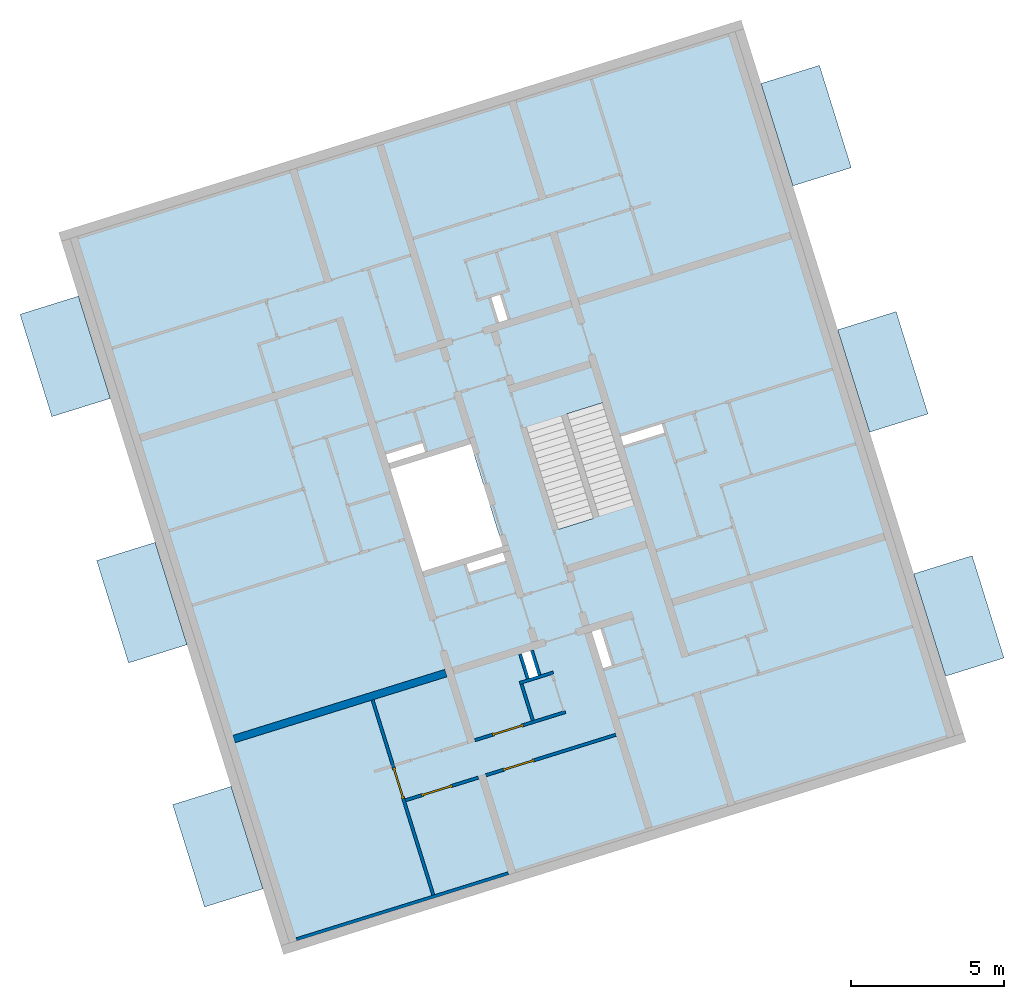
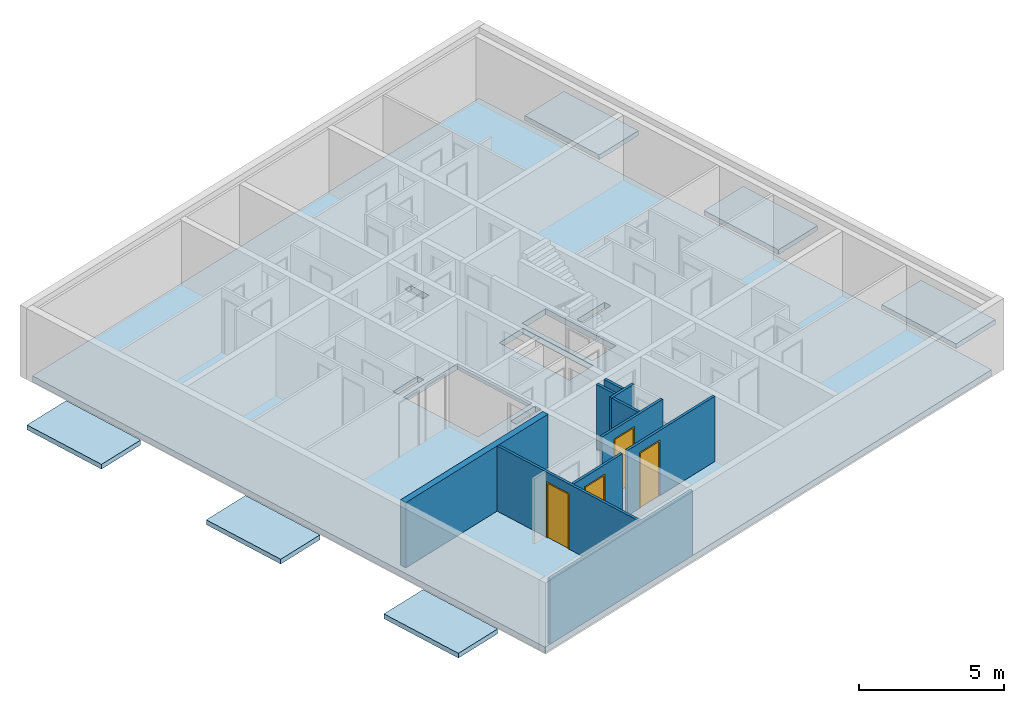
# One storey, part 1 of 9: 10 walls, 7 slabs, 4 doors, 13 openings.
"""IFC4 building model written with IfcOpenShell, lengths in metres."""

from ifc_helpers import new_model, entity, si_unit, converted_unit, direction, frame, origin, place, context, subcontext, project, spatial, indexed_curve, outline, extrude, polygons, source, transform, mapped, material, constituent, constituent_set, type_object, type_shapes, element, fill, save


model = new_model("IFC4")

# Units and contexts
model_context = context("Model", 3, precision=1e-05, world=origin(), true_north=direction((6.12323399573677e-17, 1.0)))
body_context = subcontext(model_context, "Body", "Model", "MODEL_VIEW")
ifc_project = project(units=[si_unit("LENGTHUNIT", "METRE"), si_unit("AREAUNIT", "SQUARE_METRE"), si_unit("VOLUMEUNIT", "CUBIC_METRE"), converted_unit("PLANEANGLEUNIT", "DEGREE", entity("IfcPlaneAngleMeasure", 0.0174532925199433), si_unit("PLANEANGLEUNIT", "RADIAN"), dimensions=[0, 0, 0, 0, 0, 0, 0])], contexts=[model_context])

# Site, building, storey
site_placement = place(None, frame((13.1347999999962, 11.9886000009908, 0.0), z_axis=(0.0, 0.0, 1.0), x_axis=(0.954770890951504, 0.297342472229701, 0.0)))
site = spatial("IfcSite", under=ifc_project, at=site_placement, Name="Schiehaven", CompositionType="ELEMENT")
building_placement = place(site_placement, origin())
building = spatial("IfcBuilding", under=site, at=building_placement, Name="VORM huis", CompositionType="ELEMENT")
storey_placement = place(building_placement, frame((0.0, 0.0, 18.9)))
storey = spatial("IfcBuildingStorey", under=building, at=storey_placement, Name="06 zesde verdieping", CompositionType="ELEMENT", Elevation=18.9)

# Slab, openings
ifc_material_1 = material(Name="beton_gewapend_ihw", Category="Miscellaneous")
slab_type_1 = type_object("IfcSlabType", Name="Floor:28_FL_skelet_vloer 250mm", PredefinedType="FLOOR", material=ifc_material_1)
slab_1_placement = place(storey_placement, origin())
slab_1 = element("IfcSlab", 1, at=slab_1_placement, inside=storey, type_object=slab_type_1, material=ifc_material_1, Name="Constructieve vloer", ObjectType="Vloer", PredefinedType="FLOOR", context=body_context, shape_type="SweptSolid", body=[
    extrude(outline(indexed_curve([(-12.05, -11.375), (12.05, -11.375), (12.05, 11.375), (-12.05, 11.375), (-12.05, -11.375)], self_intersect=False), holes=[indexed_curve([(-1.75, -3.62500000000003), (-1.75000000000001, -0.875000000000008), (1.74999999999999, -0.875000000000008), (1.74999999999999, -3.62500000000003), (-1.75, -3.62500000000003)], self_intersect=False), indexed_curve([(1.76, 2.22499999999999), (1.76, 1.02499999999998), (-1.54, 1.02499999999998), (-1.54, 2.22499999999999), (1.76, 2.22499999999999)], self_intersect=False), indexed_curve([(-1.75999999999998, 3.62499999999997), (1.54, 3.62499999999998), (1.54, 2.42499999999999), (-1.75999999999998, 2.42499999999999), (-1.75999999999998, 3.62499999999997)], self_intersect=False), indexed_curve([(5.27499999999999, -1.02499999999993), (6.125, -1.02499999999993), (6.12500000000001, -1.32499999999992), (5.275, -1.32499999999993), (5.27499999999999, -1.02499999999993)], self_intersect=False), indexed_curve([(5.27500000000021, 1.37500000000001), (6.52500000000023, 1.37500000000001), (6.52500000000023, 1.07500000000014), (5.27500000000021, 1.07500000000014), (5.27500000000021, 1.37500000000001)], self_intersect=False), indexed_curve([(-0.524999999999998, 5.27500000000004), (-0.224999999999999, 5.27500000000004), (-0.224999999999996, 3.87283572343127), (-0.524999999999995, 3.87283572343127), (-0.524999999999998, 5.27500000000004)], self_intersect=False), indexed_curve([(-6.12500000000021, 1.48400000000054), (-5.2750000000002, 1.48400000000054), (-5.2750000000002, 1.18400000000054), (-6.12500000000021, 1.18400000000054), (-6.12500000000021, 1.48400000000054)], self_intersect=False), indexed_curve([(1.94999999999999, -0.924999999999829), (2.22500000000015, -0.924999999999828), (2.22500000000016, -2.17499999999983), (1.94999999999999, -2.17499999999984), (1.94999999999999, -0.924999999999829)], self_intersect=False), indexed_curve([(-2.25000000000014, -2.37499999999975), (-1.95000000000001, -2.37499999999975), (-1.95, -3.62499999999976), (-2.25000000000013, -3.62499999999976), (-2.25000000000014, -2.37499999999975)], self_intersect=False)]), frame((16.2500000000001, 17.05, -0.249999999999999), z_axis=(0.0, 0.0, 1.0), x_axis=(0.0, -1.0, 0.0)), (0.0, 0.0, 1.0), 0.249999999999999),
])
opening_1_placement = place(slab_1_placement, origin())
element("IfcOpeningElement", 2, at=opening_1_placement, cuts=slab_1, Name="Constructieve vloer", PredefinedType="OPENING", context=body_context, shape_type="SweptSolid", body=[
    extrude(outline(indexed_curve([(-1.74999999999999, -1.37500000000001), (1.75, -1.37500000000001), (1.75, 1.37500000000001), (-1.75, 1.37500000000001), (-1.74999999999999, -1.37500000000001)], self_intersect=False)), frame((14.0, 17.05, -0.249999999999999), z_axis=(0.0, 0.0, 1.0), x_axis=(0.0, -1.0, 0.0)), (0.0, 0.0, 1.0), 0.249999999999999),
])
opening_2_placement = place(slab_1_placement, origin())
element("IfcOpeningElement", 3, at=opening_2_placement, cuts=slab_1, Name="Constructieve vloer", PredefinedType="OPENING", context=body_context, shape_type="SweptSolid", body=[
    extrude(outline(indexed_curve([(-1.65, -0.600000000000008), (1.65, -0.600000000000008), (1.65, 0.600000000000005), (-1.65, 0.600000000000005), (-1.65, -0.600000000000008)], self_intersect=False)), frame((17.8750000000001, 16.94, -0.249999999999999), z_axis=(0.0, 0.0, 1.0), x_axis=(0.0, 1.0, 0.0)), (0.0, 0.0, 1.0), 0.249999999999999),
])
opening_3_placement = place(slab_1_placement, origin())
element("IfcOpeningElement", 4, at=opening_3_placement, cuts=slab_1, Name="Constructieve vloer", PredefinedType="OPENING", context=body_context, shape_type="SweptSolid", body=[
    extrude(outline(indexed_curve([(-0.150000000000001, -0.425000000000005), (0.149999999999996, -0.425000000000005), (0.149999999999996, 0.425000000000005), (-0.150000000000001, 0.425000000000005), (-0.150000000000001, -0.425000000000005)], self_intersect=False)), frame((15.0750000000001, 11.35, -0.249999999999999), z_axis=(0.0, 0.0, 1.0), x_axis=(-1.0, 0.0, 0.0)), (0.0, 0.0, 1.0), 0.249999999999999),
])
opening_4_placement = place(slab_1_placement, origin())
element("IfcOpeningElement", 5, at=opening_4_placement, cuts=slab_1, Name="Constructieve vloer", PredefinedType="OPENING", context=body_context, shape_type="SweptSolid", body=[
    extrude(outline(indexed_curve([(-0.149999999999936, -0.625000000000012), (0.149999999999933, -0.625000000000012), (0.149999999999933, 0.625000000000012), (-0.149999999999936, 0.625000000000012), (-0.149999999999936, -0.625000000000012)], self_intersect=False)), frame((17.4750000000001, 11.1499999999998, -0.249999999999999), z_axis=(0.0, 0.0, 1.0), x_axis=(-1.0, 0.0, 0.0)), (0.0, 0.0, 1.0), 0.249999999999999),
])
opening_5_placement = place(slab_1_placement, origin())
element("IfcOpeningElement", 6, at=opening_5_placement, cuts=slab_1, Name="Constructieve vloer", PredefinedType="OPENING", context=body_context, shape_type="SweptSolid", body=[
    extrude(outline(indexed_curve([(-0.701082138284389, -0.149999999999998), (0.701082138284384, -0.149999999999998), (0.701082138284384, 0.150000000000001), (-0.701082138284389, 0.150000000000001), (-0.701082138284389, -0.149999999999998)], self_intersect=False)), frame((20.8239178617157, 17.425, -0.249999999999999), z_axis=(0.0, 0.0, 1.0), x_axis=(-1.0, 0.0, 0.0)), (0.0, 0.0, 1.0), 0.249999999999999),
])
opening_6_placement = place(slab_1_placement, origin())
element("IfcOpeningElement", 7, at=opening_6_placement, cuts=slab_1, Name="Constructieve vloer", PredefinedType="OPENING", context=body_context, shape_type="SweptSolid", body=[
    extrude(outline(indexed_curve([(-0.149999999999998, -0.425000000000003), (0.149999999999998, -0.425000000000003), (0.149999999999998, 0.425000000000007), (-0.149999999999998, 0.425000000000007), (-0.149999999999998, -0.425000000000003)], self_intersect=False)), frame((17.5840000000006, 22.7500000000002, -0.249999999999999), z_axis=(0.0, 0.0, 1.0), x_axis=(-1.0, 0.0, 0.0)), (0.0, 0.0, 1.0), 0.249999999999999),
])
opening_7_placement = place(slab_1_placement, origin())
element("IfcOpeningElement", 8, at=opening_7_placement, cuts=slab_1, Name="Constructieve vloer", PredefinedType="OPENING", context=body_context, shape_type="SweptSolid", body=[
    extrude(outline(indexed_curve([(-0.625000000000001, -0.137500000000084), (0.625000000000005, -0.137500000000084), (0.625000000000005, 0.137500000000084), (-0.625000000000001, 0.137500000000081), (-0.625000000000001, -0.137500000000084)], self_intersect=False)), frame((14.7000000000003, 14.9624999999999, -0.249999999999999), z_axis=(0.0, 0.0, 1.0), x_axis=(-1.0, 0.0, 0.0)), (0.0, 0.0, 1.0), 0.249999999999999),
])
opening_8_placement = place(slab_1_placement, origin())
element("IfcOpeningElement", 9, at=opening_8_placement, cuts=slab_1, Name="Constructieve vloer", PredefinedType="OPENING", context=body_context, shape_type="SweptSolid", body=[
    extrude(outline(indexed_curve([(-0.625000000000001, -0.150000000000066), (0.625000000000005, -0.150000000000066), (0.625000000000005, 0.150000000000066), (-0.625000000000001, 0.150000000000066), (-0.625000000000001, -0.150000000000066)], self_intersect=False)), frame((13.2500000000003, 19.1500000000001, -0.249999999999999), z_axis=(0.0, 0.0, 1.0), x_axis=(-1.0, 0.0, 0.0)), (0.0, 0.0, 1.0), 0.249999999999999),
])

# Slabs
ifc_material_2 = material(Name="beton_gewapend_prefab-element", Category="Miscellaneous")
slab_type_2 = type_object("IfcSlabType", Name="Floor:23_FL_skelet_balkon 200mm", PredefinedType="FLOOR", material=ifc_material_2)
slab_2_placement = place(storey_placement, origin())
element("IfcSlab", 10, at=slab_2_placement, inside=storey, type_object=slab_type_2, material=ifc_material_2, Name="Balkonvloer", ObjectType="Vloer", PredefinedType="FLOOR", context=body_context, shape_type="SweptSolid", body=[
    extrude(outline(indexed_curve([(-1.75000000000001, -1.0), (1.75000000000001, -1.0), (1.75000000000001, 0.999999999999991), (-1.75000000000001, 0.999999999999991), (-1.75000000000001, -1.0)], self_intersect=False)), frame((28.925, 25.475, 0.0), z_axis=(0.0, 0.0, -1.0), x_axis=(0.0, 1.0, 0.0)), (0.0, 0.0, 1.0), 0.2),
])
slab_3_placement = place(storey_placement, origin())
element("IfcSlab", 11, at=slab_3_placement, inside=storey, type_object=slab_type_2, material=ifc_material_2, Name="Balkonvloer", ObjectType="Vloer", PredefinedType="FLOOR", context=body_context, shape_type="SweptSolid", body=[
    extrude(outline(indexed_curve([(-1.74999999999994, -0.999999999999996), (1.75000000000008, -0.999999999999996), (1.74999999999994, 0.999999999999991), (-1.75000000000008, 0.999999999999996), (-1.74999999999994, -0.999999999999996)], self_intersect=False)), frame((28.9250000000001, 8.70000000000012, 0.0), z_axis=(0.0, 0.0, -1.0), x_axis=(0.0, 1.0, 0.0)), (0.0, 0.0, 1.0), 0.2),
])
slab_4_placement = place(storey_placement, origin())
element("IfcSlab", 12, at=slab_4_placement, inside=storey, type_object=slab_type_2, material=ifc_material_2, Name="Balkonvloer", ObjectType="Vloer", PredefinedType="FLOOR", context=body_context, shape_type="SweptSolid", body=[
    extrude(outline(indexed_curve([(-1.74999999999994, -0.999999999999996), (1.75000000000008, -0.999999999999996), (1.74999999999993, 0.999999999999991), (-1.75000000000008, 0.999999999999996), (-1.74999999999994, -0.999999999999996)], self_intersect=False)), frame((28.9250000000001, 17.05, 0.0), z_axis=(0.0, 0.0, -1.0), x_axis=(0.0, 1.0, 0.0)), (0.0, 0.0, 1.0), 0.2),
])
slab_5_placement = place(storey_placement, origin())
element("IfcSlab", 13, at=slab_5_placement, inside=storey, type_object=slab_type_2, material=ifc_material_2, Name="Balkonvloer", ObjectType="Vloer", PredefinedType="FLOOR", context=body_context, shape_type="SweptSolid", body=[
    extrude(outline(indexed_curve([(-1.74999999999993, -0.999999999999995), (1.75000000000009, -0.999999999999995), (1.74999999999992, 0.999999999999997), (-1.75000000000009, 0.999999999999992), (-1.74999999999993, -0.999999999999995)], self_intersect=False)), frame((3.5750000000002, 25.4750000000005, 0.0), z_axis=(0.0, 0.0, -1.0), x_axis=(0.0, 1.0, 0.0)), (0.0, 0.0, 1.0), 0.2),
])
slab_6_placement = place(storey_placement, origin())
element("IfcSlab", 14, at=slab_6_placement, inside=storey, type_object=slab_type_2, material=ifc_material_2, Name="Balkonvloer", ObjectType="Vloer", PredefinedType="FLOOR", context=body_context, shape_type="SweptSolid", body=[
    extrude(outline(indexed_curve([(-1.75000000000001, -0.999999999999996), (1.75000000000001, -0.999999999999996), (1.75000000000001, 0.999999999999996), (-1.75000000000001, 0.999999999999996), (-1.75000000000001, -0.999999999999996)], self_intersect=False)), frame((3.57500000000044, 8.69999999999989, 0.0), z_axis=(0.0, 0.0, -1.0), x_axis=(0.0, 1.0, 0.0)), (0.0, 0.0, 1.0), 0.2),
])
slab_7_placement = place(storey_placement, origin())
element("IfcSlab", 15, at=slab_7_placement, inside=storey, type_object=slab_type_2, material=ifc_material_2, Name="Balkonvloer", ObjectType="Vloer", PredefinedType="FLOOR", context=body_context, shape_type="SweptSolid", body=[
    extrude(outline(indexed_curve([(-1.75000000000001, -0.999999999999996), (1.75000000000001, -0.999999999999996), (1.75000000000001, 0.999999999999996), (-1.75000000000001, 0.999999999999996), (-1.75000000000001, -0.999999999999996)], self_intersect=False)), frame((3.5750000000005, 17.0499999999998, 0.0), z_axis=(0.0, 0.0, -1.0), x_axis=(0.0, 1.0, 0.0)), (0.0, 0.0, 1.0), 0.2),
])

# Walls
ifc_material_3 = material(Name="ntb_ntb_ntb", Category="Miscellaneous")
wall_type_1 = type_object("IfcWallType", Name="Basic Wall:21_WA_gevel_binnenspouwwand 100mm_gen", PredefinedType="STANDARD")
wall_1_placement = place(storey_placement, frame((5.12500000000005, 5.05000000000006, 0.0)))
element("IfcWall", 16, at=wall_1_placement, inside=storey, type_object=wall_type_1, material=ifc_material_3, Name="Binnenspouwblad", ObjectType="Wand", PredefinedType="NOTDEFINED", context=body_context, shape_type="SweptSolid", body=[
    extrude(outline(indexed_curve([(7.24999999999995, 0.0499999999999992), (-1.84844170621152e-16, 0.0499999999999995), (1.84844170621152e-16, -0.0499999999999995), (7.24999999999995, -0.0499999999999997), (7.24999999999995, 0.0499999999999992)], self_intersect=False)), origin(), (0.0, 0.0, 1.0), 2.75),
])
wall_type_2 = type_object("IfcWallType", Name="Basic Wall:22_WA_afbouw_binnenwand 250mm_gen", PredefinedType="STANDARD")
wall_2_placement = place(storey_placement, frame((12.3750000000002, 11.8999999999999, 0.0), z_axis=(0.0, 0.0, 1.0), x_axis=(-1.0, 0.0, 0.0)))
element("IfcWall", 17, at=wall_2_placement, inside=storey, type_object=wall_type_2, material=ifc_material_3, Name="Binnenwand", ObjectType="Wand", PredefinedType="NOTDEFINED", context=body_context, shape_type="SweptSolid", body=[
    extrude(outline(indexed_curve([(7.24999999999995, 0.124999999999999), (3.52198535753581e-16, 0.125), (-3.52198535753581e-16, -0.125), (7.24999999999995, -0.125000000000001), (7.24999999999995, 0.124999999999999)], self_intersect=False)), origin(), (0.0, 0.0, 1.0), 2.75),
])

# Wall, opening, door
wall_type_3 = type_object("IfcWallType", Name="Basic Wall:22_WA_afbouw_binnenwand 100mm_gen", PredefinedType="STANDARD")
wall_3_placement = place(storey_placement, frame((12.6250000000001, 8.32499999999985, 0.0)))
wall_3 = element("IfcWall", 18, at=wall_3_placement, inside=storey, type_object=wall_type_3, material=ifc_material_3, Name="Binnenwand", ObjectType="Wand", PredefinedType="NOTDEFINED", context=body_context, shape_type="Tessellation", body=[
    polygons([(8.64956216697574e-16, -0.0500000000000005, 2.16573425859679e-15), (0.600000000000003, -0.0500000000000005, 2.16573425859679e-15), (0.600000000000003, -0.0500000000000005, 2.34999999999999), (1.65, -0.0500000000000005, 2.34999999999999), (1.65, -0.0500000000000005, 2.16573425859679e-15), (4.45000000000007, -0.0500000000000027, 2.16573425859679e-15), (4.45000000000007, -0.0500000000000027, 2.75), (8.64956216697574e-16, -0.0500000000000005, 2.75), (0.600000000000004, 0.0499999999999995, 2.34999999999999), (0.600000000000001, 0.0499999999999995, 2.16573425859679e-15), (1.41847817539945e-15, 0.0499999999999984, 2.16573425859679e-15), (1.41847817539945e-15, 0.0499999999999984, 2.75), (4.45000000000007, 0.0499999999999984, 2.75), (4.45000000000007, 0.0499999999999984, 2.16573425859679e-15), (1.65, 0.0499999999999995, 2.16573425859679e-15), (1.65000000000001, 0.0499999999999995, 2.34999999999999)], [[[1, 2, 3, 4, 5, 6, 7, 8]], [[9, 10, 11, 12, 13, 14, 15, 16]], [[11, 10, 2, 1]], [[7, 6, 14, 13]], [[8, 7, 13, 12]], [[1, 8, 12, 11]], [[5, 4, 16, 15]], [[3, 2, 10, 9]], [[4, 3, 9, 16]], [[15, 14, 6, 5]]], closed=True),
])
opening_9_placement = place(wall_3_placement, frame((0.600000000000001, -0.0500000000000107, 0.0)))
opening_9 = element("IfcOpeningElement", 19, at=opening_9_placement, cuts=wall_3, Name="Binnendeur", PredefinedType="OPENING", context=body_context, shape_type="SweptSolid", body=[
    extrude(outline(indexed_curve([(2.34999999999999, 1.05), (0.0, 1.05), (0.0, 1.35358391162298e-15), (2.34999999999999, 1.35358391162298e-15), (2.34999999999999, 1.05)], self_intersect=False)), frame((0.0, 0.0, 0.0), z_axis=(0.0, 1.0, 0.0), x_axis=(0.0, 0.0, 1.0)), (0.0, 0.0, 1.0), 0.1),
])
ifc_material_4 = material(Name="PD_a_binnenwandopeningen", Category="Miscellaneous")
ifc_constituent_1 = constituent(ifc_material_4, Name="PD_a_binnenwandopeningen", Category="Miscellaneous")
ifc_material_5 = material(Name="metaal_aluminium_ntb", Category="Miscellaneous")
ifc_constituent_2 = constituent(ifc_material_5, Name="metaal_aluminium_ntb", Category="Miscellaneous")
ifc_constituent_set_1 = constituent_set(constituents=[ifc_constituent_1, ifc_constituent_2])
door_type = type_object("IfcDoorType", Name="32_DO_binnendeur enkel:binnendeur", OperationType="REVOLVING", PredefinedType="DOOR")
shared_shape_1 = source(origin(), body_context, "Body", "SweptSolid", [
    extrude(outline(indexed_curve([(-1.16249999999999, -0.525000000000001), (1.18749999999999, -0.525), (1.18749999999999, 0.525), (-1.16249999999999, 0.525), (-1.16249999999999, 0.475), (1.13749999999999, 0.475), (1.13749999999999, -0.475), (-1.16249999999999, -0.475), (-1.16249999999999, -0.525000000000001)], self_intersect=False)), frame((0.525000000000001, 0.0, 1.16249999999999), z_axis=(0.0, 1.0, 0.0), x_axis=(0.0, 0.0, 1.0)), (0.0, 0.0, 1.0), 0.1),
    extrude(outline(indexed_curve([(-0.025, -0.475), (0.025, -0.475), (0.025, 0.475), (-0.025, 0.475), (-0.025, -0.475)], self_intersect=False)), frame((0.525000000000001, 0.0499999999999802, 0.0), z_axis=(0.0, 0.0, 1.0), x_axis=(0.0, 1.0, 0.0)), (0.0, 0.0, 1.0), 2.29999999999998),
])
type_shapes(door_type, [shared_shape_1])
door_1_placement = place(opening_9_placement, origin())
door_1 = element("IfcDoor", 20, at=door_1_placement, inside=storey, type_object=door_type, material=ifc_constituent_set_1, Name="Binnendeur", ObjectType="Deur", OperationType="REVOLVING", OverallHeight=2.34999999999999, OverallWidth=1.05, PredefinedType="DOOR", context=body_context, shape_type="MappedRepresentation", body=[
    mapped(shared_shape_1, transform((0.0, 0.0, 0.0), scale=1.0)),
])
fill(opening_9, door_1)

# Wall, openings, door
wall_4_placement = place(storey_placement, frame((12.6250000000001, 9.52499999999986, 0.0)))
wall_4 = element("IfcWall", 21, at=wall_4_placement, inside=storey, type_object=wall_type_3, material=ifc_material_3, Name="Binnenwand", ObjectType="Wand", PredefinedType="NOTDEFINED", context=body_context, shape_type="Tessellation", body=[
    polygons([(1.65, -0.0500000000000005, 2.34999999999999), (1.65, -0.0500000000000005, 2.16573425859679e-15), (3.10000000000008, -0.0500000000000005, 2.16573425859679e-15), (3.10000000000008, -0.0500000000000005, 2.75), (1.0100169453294e-15, -0.0500000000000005, 2.75), (1.0100169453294e-15, -0.0500000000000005, 2.16573425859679e-15), (0.600000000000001, -0.0500000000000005, 2.16573425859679e-15), (0.600000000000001, -0.0500000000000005, 2.34999999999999), (3.10000000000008, 0.0499999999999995, 2.16573425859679e-15), (2.05000000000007, 0.0499999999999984, 2.16573425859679e-15), (1.95000000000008, 0.0499999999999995, 2.16573425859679e-15), (1.65, 0.0499999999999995, 2.16573425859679e-15), (1.65, 0.0499999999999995, 2.34999999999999), (0.599999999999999, 0.0499999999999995, 2.34999999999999), (0.600000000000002, 0.0499999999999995, 2.16573425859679e-15), (1.56353890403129e-15, 0.0499999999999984, 2.16573425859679e-15), (1.56353890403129e-15, 0.0499999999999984, 2.75), (1.95000000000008, 0.0499999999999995, 2.75), (2.05000000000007, 0.0499999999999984, 2.75), (3.00000000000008, 0.0499999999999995, 2.75), (3.10000000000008, 0.0499999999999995, 2.75), (3.10000000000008, 0.0499999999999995, 2.34999999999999)], [[[1, 2, 3, 4, 5, 6, 7, 8]], [[9, 10, 11, 12, 13, 14, 15, 16, 17, 18, 19, 20, 21, 22]], [[7, 6, 16, 15]], [[5, 4, 21, 20, 19, 18, 17]], [[6, 5, 17, 16]], [[15, 14, 8, 7]], [[13, 12, 2, 1]], [[14, 13, 1, 8]], [[4, 3, 9, 22, 21]], [[3, 2, 12, 11, 10, 9]]], closed=True),
])
opening_10_placement = place(wall_4_placement, origin())
element("IfcOpeningElement", 22, at=opening_10_placement, cuts=wall_4, Name="Binnendeur", PredefinedType="OPENING", context=body_context, shape_type="SweptSolid", body=[
    extrude(outline(indexed_curve([(-0.0499999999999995, -1.17499999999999), (0.0499999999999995, -1.17499999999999), (0.0499999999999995, 1.17499999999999), (-0.0499999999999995, 1.17499999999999), (-0.0499999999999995, -1.17499999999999)], self_intersect=False)), frame((3.05000000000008, 0.0499999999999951, 1.17499999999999), z_axis=(0.0, 1.0, 0.0), x_axis=(-1.0, 0.0, 0.0)), (0.0, 0.0, 1.0), 1.05),
])
opening_11_placement = place(wall_4_placement, frame((1.65, 0.0499999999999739, 0.0)))
opening_11 = element("IfcOpeningElement", 23, at=opening_11_placement, cuts=wall_4, Name="Binnendeur", PredefinedType="OPENING", context=body_context, shape_type="SweptSolid", body=[
    extrude(outline(indexed_curve([(2.34999999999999, 1.05), (0.0, 1.05), (0.0, 1.35358391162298e-15), (2.34999999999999, 1.35358391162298e-15), (2.34999999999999, 1.05)], self_intersect=False)), frame((0.0, 0.0, 0.0), z_axis=(0.0, -1.0, 0.0), x_axis=(0.0, 0.0, 1.0)), (0.0, 0.0, 1.0), 0.1),
])
ifc_constituent_3 = constituent(ifc_material_4, Name="PD_a_binnenwandopeningen", Category="Miscellaneous")
ifc_constituent_4 = constituent(ifc_material_5, Name="metaal_aluminium_ntb", Category="Miscellaneous")
ifc_constituent_set_2 = constituent_set(constituents=[ifc_constituent_3, ifc_constituent_4])
door_2_placement = place(opening_11_placement, frame((0.0, 0.0, 0.0), z_axis=(0.0, 0.0, 1.0), x_axis=(-1.0, 0.0, 0.0)))
door_2 = element("IfcDoor", 24, at=door_2_placement, inside=storey, type_object=door_type, material=ifc_constituent_set_2, Name="Binnendeur", ObjectType="Deur", OperationType="REVOLVING", OverallHeight=2.34999999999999, OverallWidth=1.05, PredefinedType="DOOR", context=body_context, shape_type="MappedRepresentation", body=[
    mapped(shared_shape_1, transform((0.0, 0.0, 0.0), scale=1.0)),
])
fill(opening_11, door_2)

# Walls
wall_5_placement = place(storey_placement, frame((14.5750000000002, 10.8749999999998, 0.0)))
element("IfcWall", 25, at=wall_5_placement, inside=storey, type_object=wall_type_3, material=ifc_material_3, Name="Binnenwand", ObjectType="Wand", PredefinedType="NOTDEFINED", context=body_context, shape_type="SweptSolid", body=[
    extrude(outline(indexed_curve([(1.15, 0.0499999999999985), (-8.06106149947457e-16, 0.0499999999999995), (8.06106149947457e-16, -0.0499999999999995), (1.15, -0.0500000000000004), (1.15, 0.0499999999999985)], self_intersect=False)), origin(), (0.0, 0.0, 1.0), 2.75),
])
wall_6_placement = place(storey_placement, frame((14.6250000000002, 10.8249999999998, 0.0), z_axis=(0.0, 0.0, 1.0), x_axis=(0.0, -1.0, 0.0)))
element("IfcWall", 26, at=wall_6_placement, inside=storey, type_object=wall_type_3, material=ifc_material_3, Name="Binnenwand", ObjectType="Wand", PredefinedType="NOTDEFINED", context=body_context, shape_type="SweptSolid", body=[
    extrude(outline(indexed_curve([(1.25, 0.0499999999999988), (-7.54991624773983e-16, 0.0499999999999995), (7.54991624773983e-16, -0.0499999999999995), (1.25, -0.0500000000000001), (1.25, 0.0499999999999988)], self_intersect=False)), origin(), (0.0, 0.0, 1.0), 2.75),
])
wall_7_placement = place(storey_placement, frame((15.2750000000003, 11.7749999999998, 0.0), z_axis=(0.0, 0.0, 1.0), x_axis=(0.0, -1.0, 0.0)))
element("IfcWall", 27, at=wall_7_placement, inside=storey, type_object=wall_type_3, material=ifc_material_3, Name="Binnenwand", ObjectType="Wand", PredefinedType="NOTDEFINED", context=body_context, shape_type="SweptSolid", body=[
    extrude(outline(indexed_curve([(0.850000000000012, 0.0499999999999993), (-7.54991624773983e-16, 0.0499999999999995), (7.54991624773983e-16, -0.0499999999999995), (0.850000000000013, -0.0499999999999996), (0.850000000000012, 0.0499999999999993)], self_intersect=False)), origin(), (0.0, 0.0, 1.0), 2.75),
])

# Wall, opening, door
wall_8_placement = place(storey_placement, frame((12.3750000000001, 8.32499999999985, 0.0), z_axis=(0.0, 0.0, 1.0), x_axis=(-1.0, 0.0, 0.0)))
wall_8 = element("IfcWall", 28, at=wall_8_placement, inside=storey, type_object=wall_type_3, material=ifc_material_3, Name="Binnenwand", ObjectType="Wand", PredefinedType="NOTDEFINED", context=body_context, shape_type="Tessellation", body=[
    polygons([(-6.61056801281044e-16, -0.0500000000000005, 2.16573425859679e-15), (0.899999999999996, -0.0500000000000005, 2.16573425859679e-15), (0.899999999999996, -0.0500000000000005, 2.34999999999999), (1.95, -0.0500000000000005, 2.34999999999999), (1.95, -0.0500000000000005, 2.16573425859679e-15), (2.50000000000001, -0.0500000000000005, 2.16573425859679e-15), (2.50000000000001, -0.0500000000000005, 2.75), (-6.61056801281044e-16, -0.0500000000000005, 2.75), (0.899999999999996, 0.0499999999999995, 2.34999999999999), (0.899999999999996, 0.0499999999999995, 2.16573425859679e-15), (-5.30330896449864e-16, 0.0499999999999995, 2.16573425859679e-15), (-5.30330896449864e-16, 0.0499999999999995, 2.75), (2.50000000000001, 0.0499999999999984, 2.75), (2.50000000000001, 0.0499999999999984, 2.16573425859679e-15), (1.95, 0.0499999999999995, 2.16573425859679e-15), (1.95, 0.0499999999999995, 2.34999999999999)], [[[1, 2, 3, 4, 5, 6, 7, 8]], [[9, 10, 11, 12, 13, 14, 15, 16]], [[11, 10, 2, 1]], [[8, 7, 13, 12]], [[1, 8, 12, 11]], [[5, 4, 16, 15]], [[3, 2, 10, 9]], [[4, 3, 9, 16]], [[7, 6, 14, 13]], [[15, 14, 6, 5]]], closed=True),
])
opening_12_placement = place(wall_8_placement, frame((1.95, 0.0499999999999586, 0.0)))
opening_12 = element("IfcOpeningElement", 29, at=opening_12_placement, cuts=wall_8, Name="Binnendeur", PredefinedType="OPENING", context=body_context, shape_type="SweptSolid", body=[
    extrude(outline(indexed_curve([(2.34999999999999, 1.35358391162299e-15), (2.34999999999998, 1.05), (0.0, 1.05), (2.16573425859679e-15, 1.35358391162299e-15), (2.34999999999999, 1.35358391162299e-15)], self_intersect=False)), frame((0.0, 0.0, 0.0), z_axis=(0.0, -1.0, 0.0), x_axis=(0.0, 0.0, 1.0)), (0.0, 0.0, 1.0), 0.1),
])
ifc_constituent_5 = constituent(ifc_material_4, Name="PD_a_binnenwandopeningen", Category="Miscellaneous")
ifc_constituent_6 = constituent(ifc_material_5, Name="metaal_aluminium_ntb", Category="Miscellaneous")
ifc_constituent_set_3 = constituent_set(constituents=[ifc_constituent_5, ifc_constituent_6])
shared_shape_2 = source(origin(), body_context, "Body", "SweptSolid", [
    extrude(outline(indexed_curve([(0.475, -1.16249999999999), (0.525, -1.16249999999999), (0.525, 1.18749999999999), (-0.525, 1.18749999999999), (-0.525, -1.16249999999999), (-0.475, -1.16249999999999), (-0.475, 1.13749999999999), (0.475, 1.13749999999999), (0.475, -1.16249999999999)], self_intersect=False)), frame((0.525000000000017, 0.100000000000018, 1.16249999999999), z_axis=(0.0, -1.0, 0.0), x_axis=(1.0, 0.0, 0.0)), (0.0, 0.0, 1.0), 0.1),
    extrude(outline(indexed_curve([(-0.475, -0.025), (0.475, -0.025), (0.475, 0.025), (-0.475, 0.025), (-0.475, -0.025)], self_intersect=False)), frame((0.525000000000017, 0.0499999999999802, 0.0)), (0.0, 0.0, 1.0), 2.29999999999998),
])
door_3_placement = place(opening_12_placement, frame((0.0, 0.0, 0.0), z_axis=(0.0, 0.0, 1.0), x_axis=(-1.0, 0.0, 0.0)))
door_3 = element("IfcDoor", 30, at=door_3_placement, inside=storey, type_object=door_type, material=ifc_constituent_set_3, Name="Binnendeur", ObjectType="Deur", OperationType="REVOLVING", OverallHeight=2.34999999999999, OverallWidth=1.05, PredefinedType="DOOR", context=body_context, shape_type="MappedRepresentation", body=[
    mapped(shared_shape_2, transform((0.0, 0.0, 0.0), scale=1.0)),
])
fill(opening_12, door_3)

wall_9_placement = place(storey_placement, frame((9.82500000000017, 11.7749999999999, 0.0), z_axis=(0.0, 0.0, 1.0), x_axis=(0.0, -1.0, 0.0)))
wall_9 = element("IfcWall", 31, at=wall_9_placement, inside=storey, type_object=wall_type_3, material=ifc_material_3, Name="Binnenwand", ObjectType="Wand", PredefinedType="NOTDEFINED", context=body_context, shape_type="Tessellation", body=[
    polygons([(2.16573425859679e-15, -0.0500000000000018, 2.16573425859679e-15), (2.19999999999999, -0.0500000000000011, 2.16573425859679e-15), (2.29999999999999, -0.0500000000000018, 2.16573425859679e-15), (2.32500000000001, -0.0500000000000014, 2.16573425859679e-15), (2.32500000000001, -0.0500000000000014, 2.34999999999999), (3.37500000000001, -0.0500000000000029, 2.34999999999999), (3.37500000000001, -0.0500000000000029, 2.16573425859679e-15), (6.675, -0.0500000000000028, 2.16573425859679e-15), (6.675, -0.0500000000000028, 2.75), (2.29999999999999, -0.0500000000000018, 2.75), (2.19999999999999, -0.0500000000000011, 2.75), (2.16573425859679e-15, -0.0500000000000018, 2.75), (2.32500000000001, 0.0499999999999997, 2.34999999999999), (2.32500000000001, 0.0499999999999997, 2.16573425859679e-15), (2.29999999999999, 0.0499999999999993, 2.16573425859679e-15), (2.19999999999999, 0.05, 2.16573425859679e-15), (2.16573425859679e-15, 0.0499999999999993, 2.16573425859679e-15), (2.16573425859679e-15, 0.0499999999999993, 2.75), (2.19999999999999, 0.05, 2.75), (2.29999999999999, 0.0499999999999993, 2.75), (3.4, 0.0499999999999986, 2.75), (3.5, 0.0500000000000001, 2.75), (6.67499999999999, 0.0499999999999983, 2.75), (6.67499999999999, 0.0499999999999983, 2.16573425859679e-15), (3.5, 0.0500000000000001, 2.16573425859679e-15), (3.4, 0.0499999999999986, 2.16573425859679e-15), (3.37500000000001, 0.0499999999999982, 2.16573425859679e-15), (3.37500000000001, 0.0499999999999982, 2.34999999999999)], [[[1, 2, 3, 4, 5, 6, 7, 8, 9, 10, 11, 12]], [[13, 14, 15, 16, 17, 18, 19, 20, 21, 22, 23, 24, 25, 26, 27, 28]], [[17, 16, 15, 14, 4, 3, 2, 1]], [[9, 8, 24, 23]], [[12, 11, 10, 9, 23, 22, 21, 20, 19, 18]], [[1, 12, 18, 17]], [[7, 6, 28, 27]], [[5, 4, 14, 13]], [[6, 5, 13, 28]], [[27, 26, 25, 24, 8, 7]]], closed=True),
])
opening_13_placement = place(wall_9_placement, frame((2.32500000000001, -0.0500000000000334, 0.0)))
opening_13 = element("IfcOpeningElement", 32, at=opening_13_placement, cuts=wall_9, Name="Binnendeur", PredefinedType="OPENING", context=body_context, shape_type="SweptSolid", body=[
    extrude(outline(indexed_curve([(2.34999999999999, 1.05), (0.0, 1.05), (0.0, 2.70716782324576e-16), (2.34999999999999, 2.70716782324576e-16), (2.34999999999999, 1.05)], self_intersect=False)), frame((0.0, 0.0, 0.0), z_axis=(0.0, 1.0, 0.0), x_axis=(0.0, 0.0, 1.0)), (0.0, 0.0, 1.0), 0.1),
])
ifc_constituent_7 = constituent(ifc_material_4, Name="PD_a_binnenwandopeningen", Category="Miscellaneous")
ifc_constituent_8 = constituent(ifc_material_5, Name="metaal_aluminium_ntb", Category="Miscellaneous")
ifc_constituent_set_4 = constituent_set(constituents=[ifc_constituent_7, ifc_constituent_8])
door_4_placement = place(opening_13_placement, origin())
door_4 = element("IfcDoor", 33, at=door_4_placement, inside=storey, type_object=door_type, material=ifc_constituent_set_4, Name="Binnendeur", ObjectType="Deur", OperationType="REVOLVING", OverallHeight=2.34999999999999, OverallWidth=1.05, PredefinedType="DOOR", context=body_context, shape_type="MappedRepresentation", body=[
    mapped(shared_shape_1, transform((0.0, 0.0, 0.0), scale=1.0)),
])
fill(opening_13, door_4)

# Wall
wall_10_placement = place(storey_placement, frame((14.8750000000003, 11.7749999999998, 0.0), z_axis=(0.0, 0.0, 1.0), x_axis=(0.0, -1.0, 0.0)))
element("IfcWall", 34, at=wall_10_placement, inside=storey, type_object=wall_type_3, material=ifc_material_3, Name="Binnenwand", ObjectType="Wand", PredefinedType="NOTDEFINED", context=body_context, shape_type="SweptSolid", body=[
    extrude(outline(indexed_curve([(0.850000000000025, 0.0499999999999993), (-7.54991624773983e-16, 0.0499999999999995), (7.54991624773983e-16, -0.0499999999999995), (0.850000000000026, -0.0499999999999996), (0.850000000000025, 0.0499999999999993)], self_intersect=False)), origin(), (0.0, 0.0, 1.0), 2.75),
])

save(model, "model.ifc")
